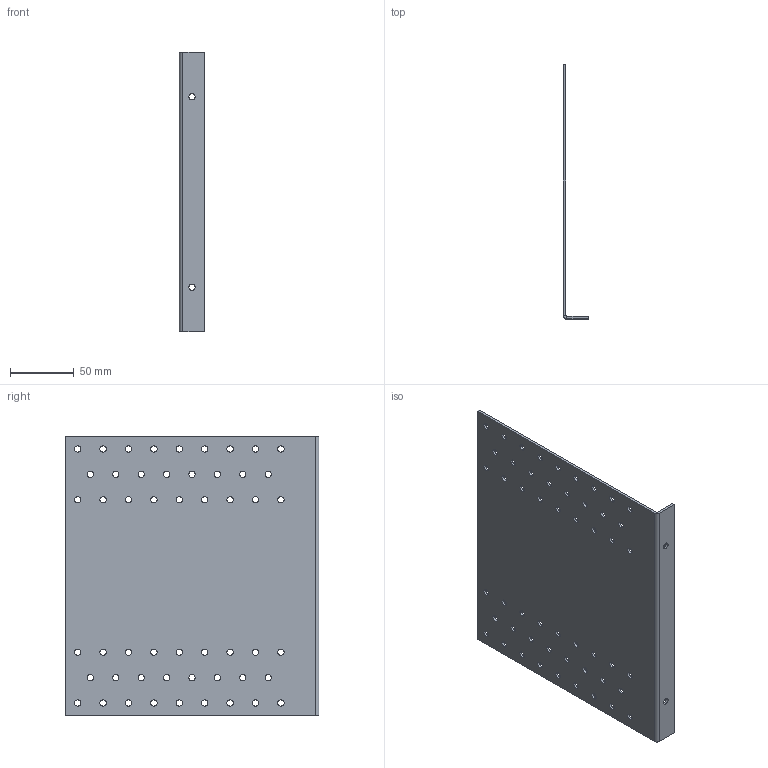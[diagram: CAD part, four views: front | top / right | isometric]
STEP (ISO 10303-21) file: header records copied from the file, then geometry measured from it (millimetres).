
FILE_DESCRIPTION (( 'STEP AP203' ), '1' );
FILE_NAME ('220.STEP', '2020-04-17T13:15:30', ( '' ), ( '' ), 'SwSTEP 2.0', 'SolidWorks 2013', '' );
FILE_SCHEMA (( 'CONFIG_CONTROL_DESIGN' ));
Length unit declared in the file: millimetre
Products named in the file (1): 220
Bounding box: 20 x 200 x 220 mm (x, y, z)
Volume: 93472.3 mm3; surface area: 96917.8 mm2
Topology: 1 solids, 1 shells, 122 faces, 352 edges, 232 vertices
Faces by surface type: cylinder 110, plane 12
Entity records: 4425 total; most frequent: DIRECTION 818, CARTESIAN_POINT 707, ORIENTED_EDGE 704, EDGE_CURVE 352, AXIS2_PLACEMENT_3D 343, VERTEX_POINT 232, EDGE_LOOP 230, CIRCLE 220
